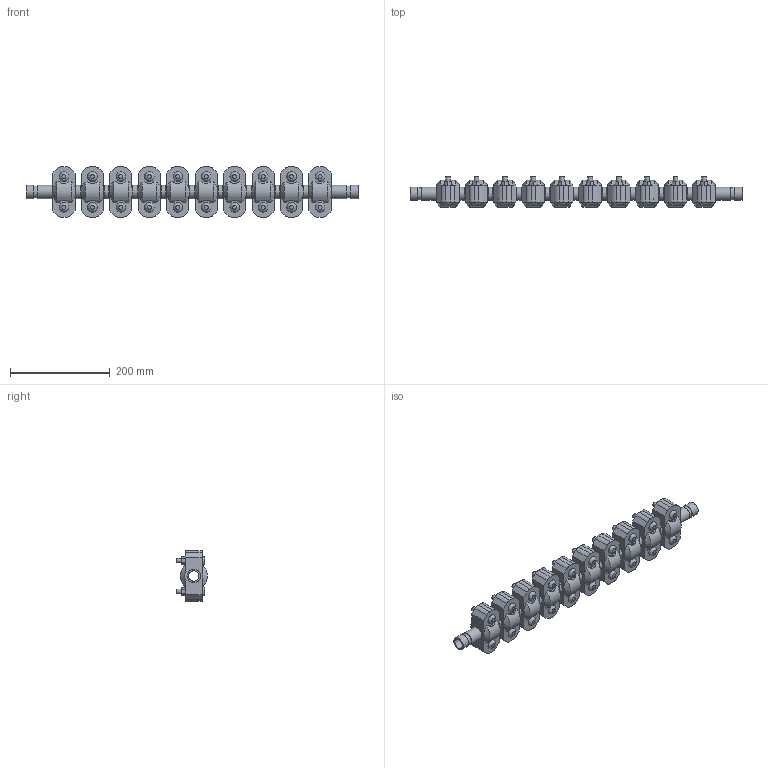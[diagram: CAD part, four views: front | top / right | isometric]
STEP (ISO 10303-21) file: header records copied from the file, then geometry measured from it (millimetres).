
FILE_DESCRIPTION(/* description */ ('VIC EXPANSION JOINT 10 COUPLINGS COMPRESSED STYLE 155 (OGS)','CAx-IF Rec.Pracs.---Representation and Presentation of Product Manufacturing Information (PMI)---4.0---2014-10-13'),/* implementation_level */ '2;1');
FILE_NAME(/* name */ 'C:\Users\kkamble\AppData\Roaming\Autodesk\ApplicationPlugins\Victaulic.Temp\A539\Victaulic_IPS_Expansion Joint_Compressed_10 Couplings_Style 155 (OGS)_0.75 (20).stp',/* time_stamp */ '2021-06-27T00:16:02+02:00',/* author */ ('kkamble'),/* organization */ ('Victaulic'),/* preprocessor_version */ 'ST-DEVELOPER v17.2',/* originating_system */ 'Autodesk Inventor 2019',/* authorisation */ '');
FILE_SCHEMA (('AP242_MANAGED_MODEL_BASED_3D_ENGINEERING_MIM_LF { 1 0 10303 442 1 1 4 }'));
Length unit declared in the file: inch
Products named in the file (4): 155-0.75; Nipple-0.75; Nipple-0.75_1; 077-0.75
Assembly tree (21 placements, depth 2):
  155-0.75
    Nipple-0.75  x2
    Nipple-0.75_1  x9
    077-0.75  x10
Bounding box: 666.75 x 61.1 x 101.6 mm (x, y, z)
Volume: 1531607.4 mm3; surface area: 379152.2 mm2
Topology: 21 solids, 41 shells, 702 faces, 1720 edges, 1204 vertices
Faces by surface type: plane 406, cylinder 236, cone 40, bspline 20
Full cylindrical faces by diameter (mm): 9.525 x40, 11.43 x20, 20.93 x11, 23.825 x22, 26.67 x43
Entity records: 2987 total; most frequent: CARTESIAN_POINT 583, DIRECTION 487, ORIENTED_EDGE 398, EDGE_CURVE 199, AXIS2_PLACEMENT_3D 196, VERTEX_POINT 142, EDGE_LOOP 105, LINE 95
